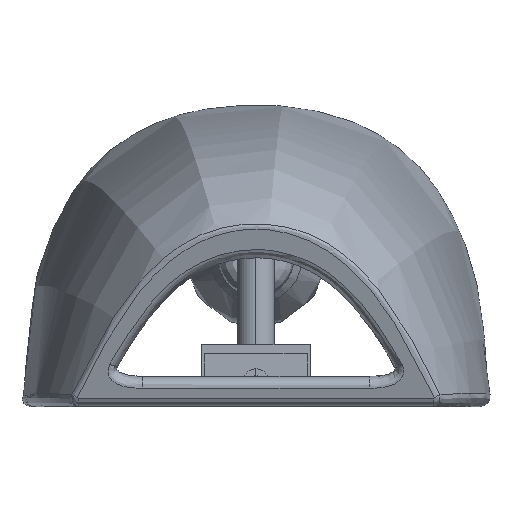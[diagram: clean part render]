
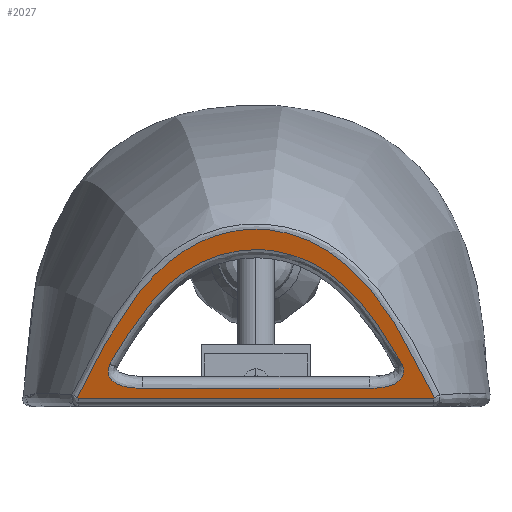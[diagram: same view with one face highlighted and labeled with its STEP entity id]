
A CAD part, front view. The second image highlights one B-rep face of the part: STEP entity #2027.
In plain terms, the highlighted planar face has unit normal (0, -0.964, -0.267) as drawn and (0.964, 0, -0.267) by its records, which use the part's own axes.
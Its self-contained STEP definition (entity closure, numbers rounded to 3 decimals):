
#63=FACE_BOUND('',#715,.T.);
#133=PLANE('',#2220);
#292=LINE('',#3476,#439);
#298=LINE('',#4917,#445);
#439=VECTOR('',#2663,304.8);
#445=VECTOR('',#2681,304.8);
#573=FACE_OUTER_BOUND('',#714,.T.);
#714=EDGE_LOOP('',(#1774,#1775,#1776,#1777));
#715=EDGE_LOOP('',(#1778,#1779,#1780,#1781,#1782,#1783,#1784,#1785));
#830=B_SPLINE_CURVE_WITH_KNOTS('',3,(#3360,#3361,#3362,#3363,#3364),
 .UNSPECIFIED.,.F.,.F.,(4,1,4),(0.,0.5,1.),.UNSPECIFIED.);
#834=B_SPLINE_CURVE_WITH_KNOTS('',3,(#3464,#3465,#3466,#3467,#3468),
 .UNSPECIFIED.,.F.,.F.,(4,1,4),(0.,0.5,1.),.UNSPECIFIED.);
#835=B_SPLINE_CURVE_WITH_KNOTS('',3,(#3617,#3618,#3619,#3620,#3621,#3622,
#3623,#3624,#3625,#3626,#3627),.UNSPECIFIED.,.F.,.F.,(4,1,1,1,1,1,1,1,4),
(0.,0.125,0.25,0.375,0.5,0.625,0.75,0.875,1.),.UNSPECIFIED.);
#844=B_SPLINE_CURVE_WITH_KNOTS('',3,(#4875,#4876,#4877,#4878,#4879,#4880),
 .UNSPECIFIED.,.F.,.F.,(4,1,1,4),(0.,0.333,0.667,
1.),.UNSPECIFIED.);
#845=B_SPLINE_CURVE_WITH_KNOTS('',3,(#4882,#4883,#4884,#4885,#4886),
 .UNSPECIFIED.,.F.,.F.,(4,1,4),(0.816,0.833,1.),
 .UNSPECIFIED.);
#846=B_SPLINE_CURVE_WITH_KNOTS('',3,(#4888,#4889,#4890,#4891,#4892),
 .UNSPECIFIED.,.F.,.F.,(4,1,4),(0.5,0.667,0.816),
 .UNSPECIFIED.);
#847=B_SPLINE_CURVE_WITH_KNOTS('',3,(#4894,#4895,#4896,#4897,#4898),
 .UNSPECIFIED.,.F.,.F.,(4,1,4),(0.243,0.333,0.5),
 .UNSPECIFIED.);
#848=B_SPLINE_CURVE_WITH_KNOTS('',3,(#4900,#4901,#4902,#4903,#4904),
 .UNSPECIFIED.,.F.,.F.,(4,1,4),(0.,0.167,0.243),
 .UNSPECIFIED.);
#849=B_SPLINE_CURVE_WITH_KNOTS('',3,(#4906,#4907,#4908,#4909,#4910,#4911),
 .UNSPECIFIED.,.F.,.F.,(4,1,1,4),(0.284,0.333,0.667,
1.),.UNSPECIFIED.);
#850=B_SPLINE_CURVE_WITH_KNOTS('',3,(#4913,#4914,#4915,#4916),
 .UNSPECIFIED.,.F.,.F.,(4,4),(0.,0.284),.UNSPECIFIED.);
#1006=VERTEX_POINT('',#3337);
#1008=VERTEX_POINT('',#3349);
#1010=VERTEX_POINT('',#3441);
#1012=VERTEX_POINT('',#3458);
#1025=VERTEX_POINT('',#4873);
#1026=VERTEX_POINT('',#4874);
#1027=VERTEX_POINT('',#4881);
#1028=VERTEX_POINT('',#4887);
#1029=VERTEX_POINT('',#4893);
#1030=VERTEX_POINT('',#4899);
#1031=VERTEX_POINT('',#4905);
#1032=VERTEX_POINT('',#4912);
#1260=EDGE_CURVE('',#1006,#1008,#830,.T.);
#1264=EDGE_CURVE('',#1010,#1012,#834,.T.);
#1266=EDGE_CURVE('',#1008,#1010,#292,.T.);
#1267=EDGE_CURVE('',#1012,#1006,#835,.T.);
#1285=EDGE_CURVE('',#1025,#1026,#844,.T.);
#1286=EDGE_CURVE('',#1027,#1025,#845,.T.);
#1287=EDGE_CURVE('',#1028,#1027,#846,.T.);
#1288=EDGE_CURVE('',#1029,#1028,#847,.T.);
#1289=EDGE_CURVE('',#1030,#1029,#848,.T.);
#1290=EDGE_CURVE('',#1031,#1030,#849,.T.);
#1291=EDGE_CURVE('',#1032,#1031,#850,.T.);
#1292=EDGE_CURVE('',#1026,#1032,#298,.T.);
#1774=ORIENTED_EDGE('',*,*,#1266,.T.);
#1775=ORIENTED_EDGE('',*,*,#1264,.T.);
#1776=ORIENTED_EDGE('',*,*,#1267,.T.);
#1777=ORIENTED_EDGE('',*,*,#1260,.T.);
#1778=ORIENTED_EDGE('',*,*,#1285,.F.);
#1779=ORIENTED_EDGE('',*,*,#1286,.F.);
#1780=ORIENTED_EDGE('',*,*,#1287,.F.);
#1781=ORIENTED_EDGE('',*,*,#1288,.F.);
#1782=ORIENTED_EDGE('',*,*,#1289,.F.);
#1783=ORIENTED_EDGE('',*,*,#1290,.F.);
#1784=ORIENTED_EDGE('',*,*,#1291,.F.);
#1785=ORIENTED_EDGE('',*,*,#1292,.F.);
#2027=ADVANCED_FACE('',(#573,#63),#133,.F.);
#2220=AXIS2_PLACEMENT_3D('',#4872,#2679,#2680);
#2663=DIRECTION('',(0.,1.,0.));
#2679=DIRECTION('center_axis',(-0.964,0.,
0.267));
#2680=DIRECTION('ref_axis',(-0.267,0.,-0.964));
#2681=DIRECTION('',(0.,1.,0.));
#3337=CARTESIAN_POINT('',(99.931,-57.592,2.774));
#3349=CARTESIAN_POINT('',(99.858,-57.359,2.511));
#3360=CARTESIAN_POINT('Ctrl Pts',(99.931,-57.592,2.774));
#3361=CARTESIAN_POINT('Ctrl Pts',(99.907,-57.603,2.688));
#3362=CARTESIAN_POINT('Ctrl Pts',(99.871,-57.575,2.558));
#3363=CARTESIAN_POINT('Ctrl Pts',(99.859,-57.448,2.512));
#3364=CARTESIAN_POINT('Ctrl Pts',(99.858,-57.359,2.511));
#3441=CARTESIAN_POINT('',(99.858,57.359,2.511));
#3458=CARTESIAN_POINT('',(99.931,57.592,2.774));
#3464=CARTESIAN_POINT('Ctrl Pts',(99.858,57.359,2.511));
#3465=CARTESIAN_POINT('Ctrl Pts',(99.859,57.447,2.512));
#3466=CARTESIAN_POINT('Ctrl Pts',(99.871,57.575,2.558));
#3467=CARTESIAN_POINT('Ctrl Pts',(99.907,57.603,2.688));
#3468=CARTESIAN_POINT('Ctrl Pts',(99.931,57.592,2.774));
#3476=CARTESIAN_POINT('',(99.858,-57.359,2.511));
#3617=CARTESIAN_POINT('Ctrl Pts',(99.931,57.592,2.774));
#3618=CARTESIAN_POINT('Ctrl Pts',(101.639,54.61,8.94));
#3619=CARTESIAN_POINT('Ctrl Pts',(105.099,48.562,21.425));
#3620=CARTESIAN_POINT('Ctrl Pts',(109.928,37.162,38.857));
#3621=CARTESIAN_POINT('Ctrl Pts',(113.911,21.359,53.231));
#3622=CARTESIAN_POINT('Ctrl Pts',(115.59,0.,
59.292));
#3623=CARTESIAN_POINT('Ctrl Pts',(113.911,-21.359,53.23));
#3624=CARTESIAN_POINT('Ctrl Pts',(109.928,-37.161,38.857));
#3625=CARTESIAN_POINT('Ctrl Pts',(105.099,-48.565,21.426));
#3626=CARTESIAN_POINT('Ctrl Pts',(101.64,-54.612,8.94));
#3627=CARTESIAN_POINT('Ctrl Pts',(99.931,-57.592,2.774));
#4872=CARTESIAN_POINT('Origin',(86.721,-37.519,-44.903));
#4873=CARTESIAN_POINT('',(102.961,-47.197,13.711));
#4874=CARTESIAN_POINT('',(100.81,-36.585,5.945));
#4875=CARTESIAN_POINT('Ctrl Pts',(102.961,-47.197,13.711));
#4876=CARTESIAN_POINT('Ctrl Pts',(102.33,-48.083,11.433));
#4877=CARTESIAN_POINT('Ctrl Pts',(101.421,-47.279,8.153));
#4878=CARTESIAN_POINT('Ctrl Pts',(100.842,-41.941,6.061));
#4879=CARTESIAN_POINT('Ctrl Pts',(100.795,-38.029,5.89));
#4880=CARTESIAN_POINT('Ctrl Pts',(100.81,-36.585,5.945));
#4881=CARTESIAN_POINT('',(108.228,-34.44,32.719));
#4882=CARTESIAN_POINT('Ctrl Pts',(108.228,-34.44,32.719));
#4883=CARTESIAN_POINT('Ctrl Pts',(108.071,-34.907,32.154));
#4884=CARTESIAN_POINT('Ctrl Pts',(106.391,-39.775,26.09));
#4885=CARTESIAN_POINT('Ctrl Pts',(104.53,-43.819,19.374));
#4886=CARTESIAN_POINT('Ctrl Pts',(102.961,-47.197,13.711));
#4887=CARTESIAN_POINT('',(113.193,0.,50.642));
#4888=CARTESIAN_POINT('Ctrl Pts',(113.193,0.,
50.642));
#4889=CARTESIAN_POINT('Ctrl Pts',(113.193,-7.149,50.641));
#4890=CARTESIAN_POINT('Ctrl Pts',(112.127,-20.703,46.793));
#4891=CARTESIAN_POINT('Ctrl Pts',(109.575,-30.422,37.581));
#4892=CARTESIAN_POINT('Ctrl Pts',(108.228,-34.44,32.719));
#4893=CARTESIAN_POINT('',(109.754,29.365,38.227));
#4894=CARTESIAN_POINT('Ctrl Pts',(109.754,29.365,38.227));
#4895=CARTESIAN_POINT('Ctrl Pts',(110.481,26.64,40.85));
#4896=CARTESIAN_POINT('Ctrl Pts',(112.328,18.16,47.517));
#4897=CARTESIAN_POINT('Ctrl Pts',(113.194,7.148,50.642));
#4898=CARTESIAN_POINT('Ctrl Pts',(113.193,0.,
50.642));
#4899=CARTESIAN_POINT('',(102.961,47.195,13.711));
#4900=CARTESIAN_POINT('Ctrl Pts',(102.961,47.195,13.711));
#4901=CARTESIAN_POINT('Ctrl Pts',(104.53,43.817,19.374));
#4902=CARTESIAN_POINT('Ctrl Pts',(106.991,38.47,28.255));
#4903=CARTESIAN_POINT('Ctrl Pts',(109.136,31.683,35.995));
#4904=CARTESIAN_POINT('Ctrl Pts',(109.754,29.365,38.227));
#4905=CARTESIAN_POINT('',(100.884,41.013,6.212));
#4906=CARTESIAN_POINT('Ctrl Pts',(100.884,41.013,6.212));
#4907=CARTESIAN_POINT('Ctrl Pts',(100.896,41.293,6.257));
#4908=CARTESIAN_POINT('Ctrl Pts',(101.006,43.454,6.655));
#4909=CARTESIAN_POINT('Ctrl Pts',(101.421,47.277,8.153));
#4910=CARTESIAN_POINT('Ctrl Pts',(102.33,48.082,11.434));
#4911=CARTESIAN_POINT('Ctrl Pts',(102.961,47.195,13.711));
#4912=CARTESIAN_POINT('',(100.81,36.583,5.945));
#4913=CARTESIAN_POINT('Ctrl Pts',(100.81,36.583,5.945));
#4914=CARTESIAN_POINT('Ctrl Pts',(100.797,37.812,5.899));
#4915=CARTESIAN_POINT('Ctrl Pts',(100.812,39.412,5.953));
#4916=CARTESIAN_POINT('Ctrl Pts',(100.884,41.013,6.212));
#4917=CARTESIAN_POINT('',(100.81,-36.585,5.945));
